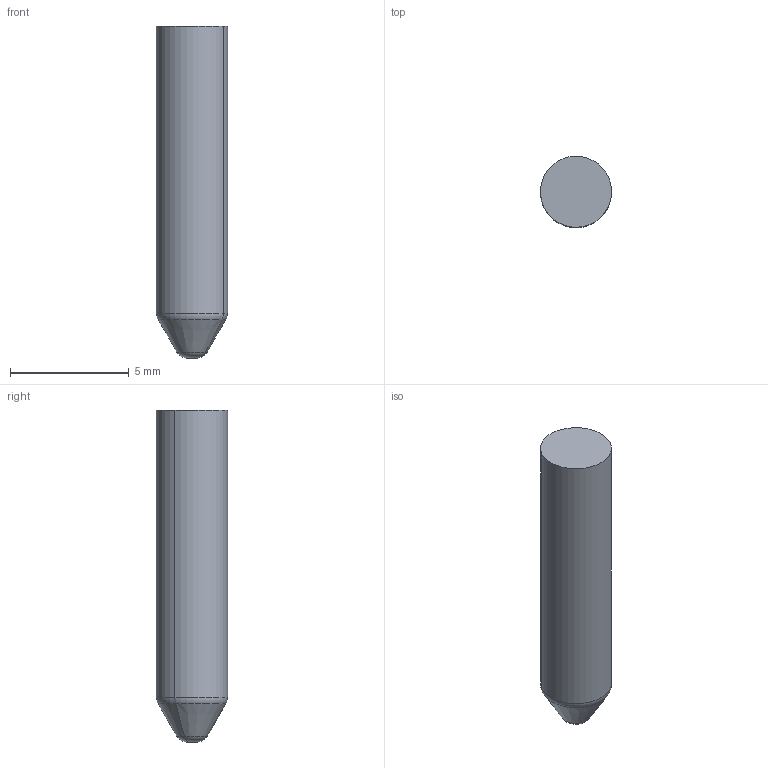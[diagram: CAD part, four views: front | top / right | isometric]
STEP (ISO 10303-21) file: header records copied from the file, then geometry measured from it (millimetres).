
FILE_DESCRIPTION(('CATIA V5 STEP Exchange','CAx-IF Rec.Pracs.--- Model Styling and Organization---1.5--- 2016-08-15','CAx-IF Rec.Pracs.---Supplemental Geometry---1.0---2011-11-01','CAx-IF Rec.Pracs.--- Composite Materials ---1.1---2010-07-15','CAx-IF Rec.Pracs.---External References---2.1---2005-01-19'),'2;1');
FILE_NAME('E:\WAT\Sprezarka\122_00_00_Tlocznik2\Tlocznik2_KPL\Tlocznik2_stp\121_01_11_Kolek.stp','2023-08-01T08:40:09+00:00',('none'),('none'),'CATIA Version 5-6 Release 2022 SP3','CATIA V5 STEP AP214 v2','none');
FILE_SCHEMA(('AUTOMOTIVE_DESIGN { 1 0 10303 214 1 1 1 1 }'));
Length unit declared in the file: millimetre
Products named in the file (1): 121_01_11_Kolek
Bounding box: 3 x 3 x 14 mm (x, y, z)
Volume: 92.6 mm3; surface area: 135.8 mm2
Topology: 1 solids, 1 shells, 10 faces, 18 edges, 10 vertices
Faces by surface type: torus 4, plane 2, cylinder 2, cone 2
Entity records: 254 total; most frequent: CARTESIAN_POINT 37, ORIENTED_EDGE 36, DIRECTION 34, AXIS2_PLACEMENT_3D 23, EDGE_CURVE 18, CIRCLE 14, ADVANCED_FACE 10, EDGE_LOOP 10
